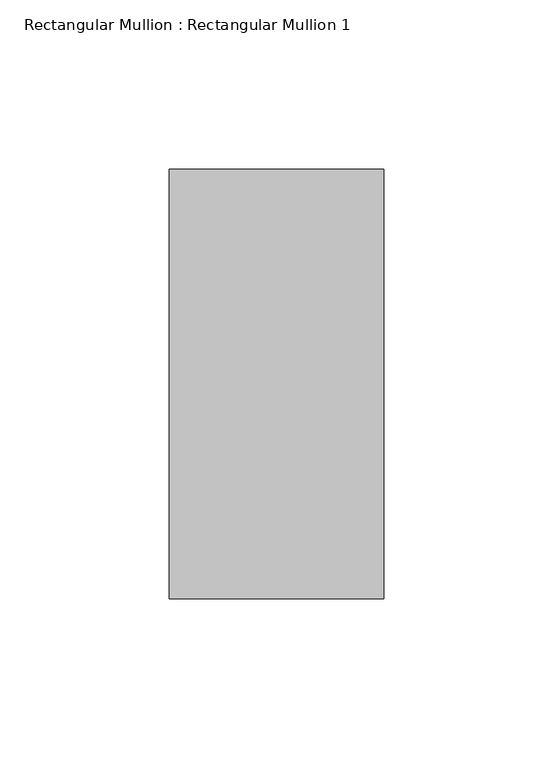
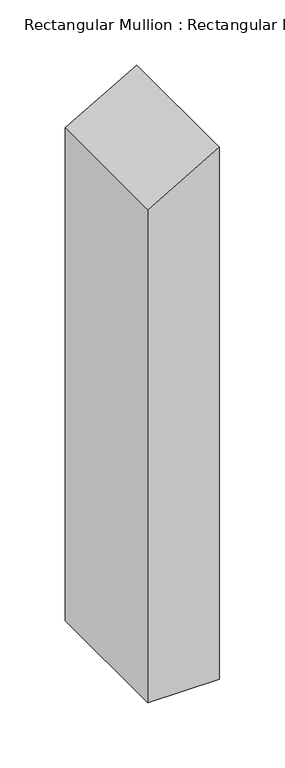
"""IFC4 building model written with IfcOpenShell, lengths in millimetres: member geometry, Rectangular Mullion : Rectangular Mullion 1."""

from ifc_helpers import new_model, si_unit, frame, origin, place, context, project, spatial, polyline, outline, extrude, source, transform, mapped, element, save


def rectangular_mullion_rectangular_mullion_1_8c133019(model_context):
    return source(origin(), model_context, "Body", "SweptSolid", [
        extrude(outline(polyline([(0.0, 0.0), (-36.6617421, -63.5), (-498.5996925, -63.5), (-498.5996925, 0.0), (0.0, 0.0)])), frame((0.0, -63.5, 0.0), z_axis=(0.0, 1.0, 0.0), x_axis=(0.0, 0.0, 1.0)), (0.0, 0.0, 1.0), 127.0),
    ])


if __name__ == "__main__":
    model = new_model("IFC4")
    model_context = context("Model", 3, world=origin())
    ifc_project = project(units=[si_unit("LENGTHUNIT", "METRE", prefix="MILLI")], contexts=[model_context])
    site = spatial("IfcSite", under=ifc_project)
    building = spatial("IfcBuilding", under=site)
    placement = place(None, origin())
    rectangular_mullion_rectangular_mullion_1_shape = rectangular_mullion_rectangular_mullion_1_8c133019(model_context)
    element("IfcMember", 1, ObjectType="Rectangular Mullion : Rectangular Mullion 1", at=placement, inside=building, context=model_context, shape_type="MappedRepresentation", body=[
        mapped(rectangular_mullion_rectangular_mullion_1_shape, transform((0.0, 0.0, 0.0), x_axis=(1.0, 0.0, 0.0), y_axis=(0.0, 1.0, 0.0), z_axis=(0.0, 0.0, 1.0))),
    ])
    save(model, "model.ifc")
